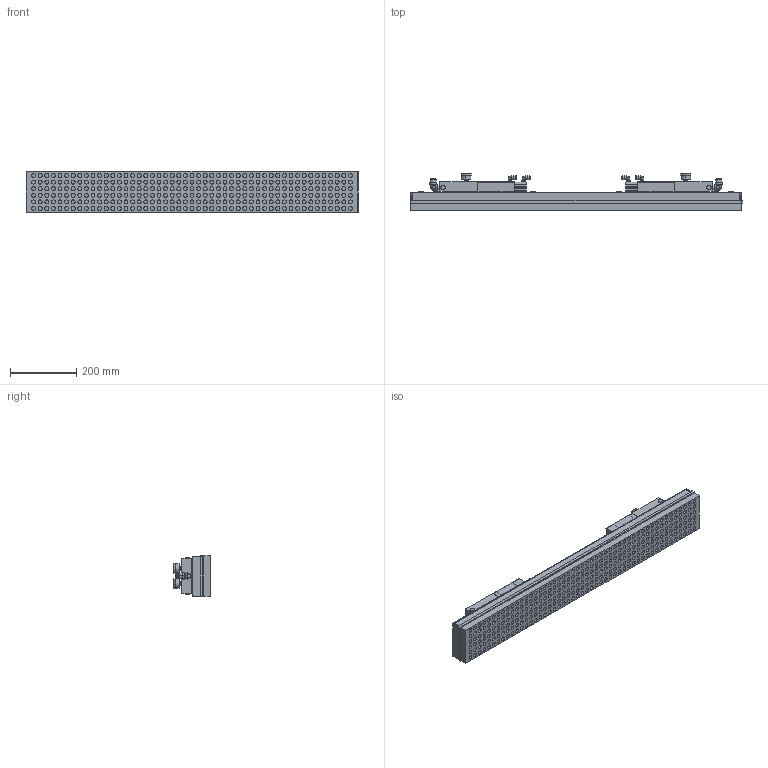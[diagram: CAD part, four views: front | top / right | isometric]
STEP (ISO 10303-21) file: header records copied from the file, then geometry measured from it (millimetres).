
FILE_DESCRIPTION (( 'STEP AP214' ), '1' );
FILE_NAME ('3-9-18793.STEP', '2012-09-03T06:53:16', ( 'cad' ), ( 'Microsoft' ), 'SwSTEP 2.0', 'SolidWorks 2012', '' );
FILE_SCHEMA (( 'AUTOMOTIVE_DESIGN' ));
Length unit declared in the file: millimetre
Products named in the file (1): 3-9-18793
Bounding box: 1006 x 111.5 x 126 mm (x, y, z)
Volume: 7286666.4 mm3; surface area: 843752.7 mm2
Topology: 1 solids, 1 shells, 2184 faces, 5030 edges, 3212 vertices
Faces by surface type: plane 1028, cylinder 978, cone 160, sphere 10, bspline 8
Entity records: 83448 total; most frequent: CARTESIAN_POINT 11479, DIRECTION 11412, ORIENTED_EDGE 10060, EDGE_CURVE 5030, AXIS2_PLACEMENT_3D 4377, VERTEX_POINT 3212, VECTOR 2658, LINE 2658
